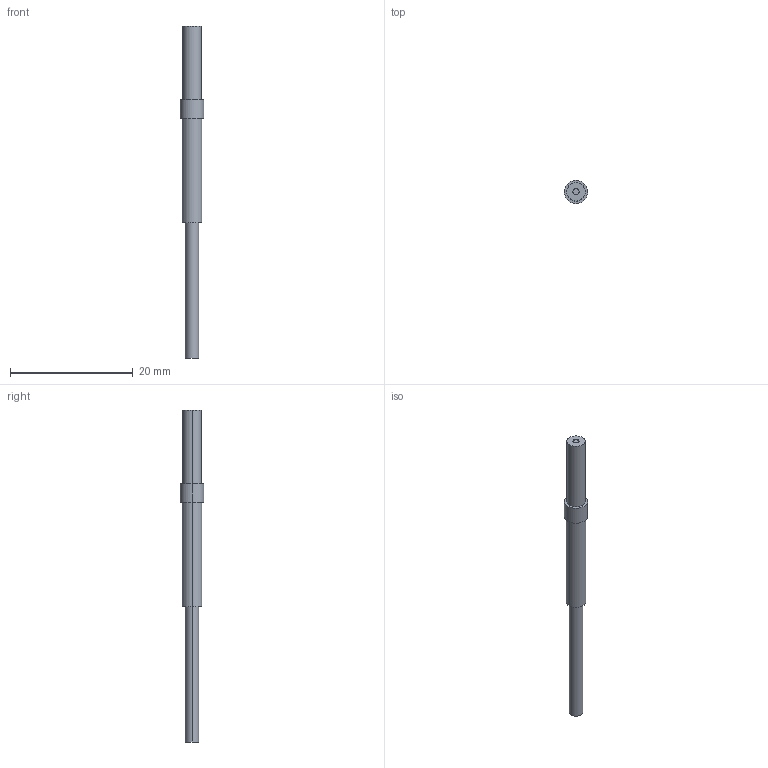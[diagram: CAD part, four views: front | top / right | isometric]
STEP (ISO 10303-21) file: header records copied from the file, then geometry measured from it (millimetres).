
FILE_DESCRIPTION (( 'STEP AP203' ), '1' );
FILE_NAME ('FT-WS3.STEP', '2005-09-08T02:30:57', ( '' ), ( '' ), 'SwSTEP 2.0', 'SolidWorks 2004073', '' );
FILE_SCHEMA (( 'CONFIG_CONTROL_DESIGN' ));
Length unit declared in the file: millimetre
Products named in the file (1): FT-WS3
Bounding box: 3.8 x 3.8 x 54 mm (x, y, z)
Volume: 339.1 mm3; surface area: 494.9 mm2
Topology: 1 solids, 1 shells, 16 faces, 30 edges, 20 vertices
Faces by surface type: cylinder 10, plane 6
Entity records: 491 total; most frequent: DIRECTION 84, CARTESIAN_POINT 67, ORIENTED_EDGE 60, AXIS2_PLACEMENT_3D 37, EDGE_CURVE 30, EDGE_LOOP 20, VERTEX_POINT 20, CIRCLE 20
